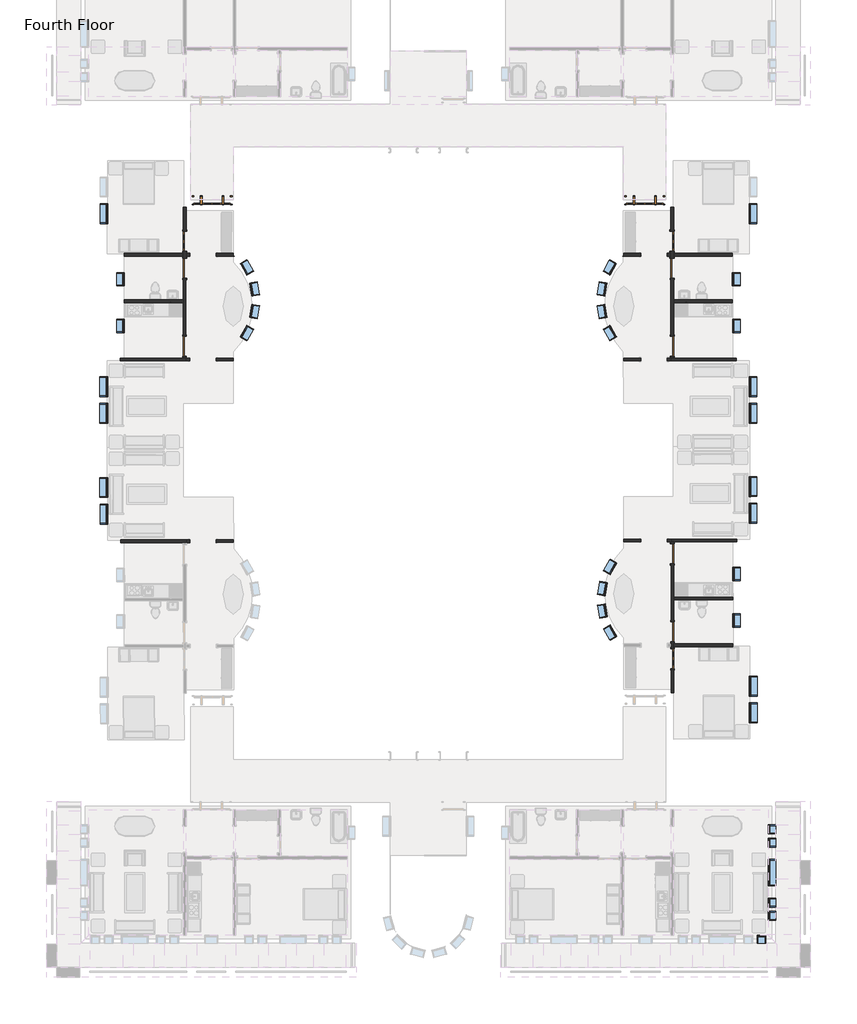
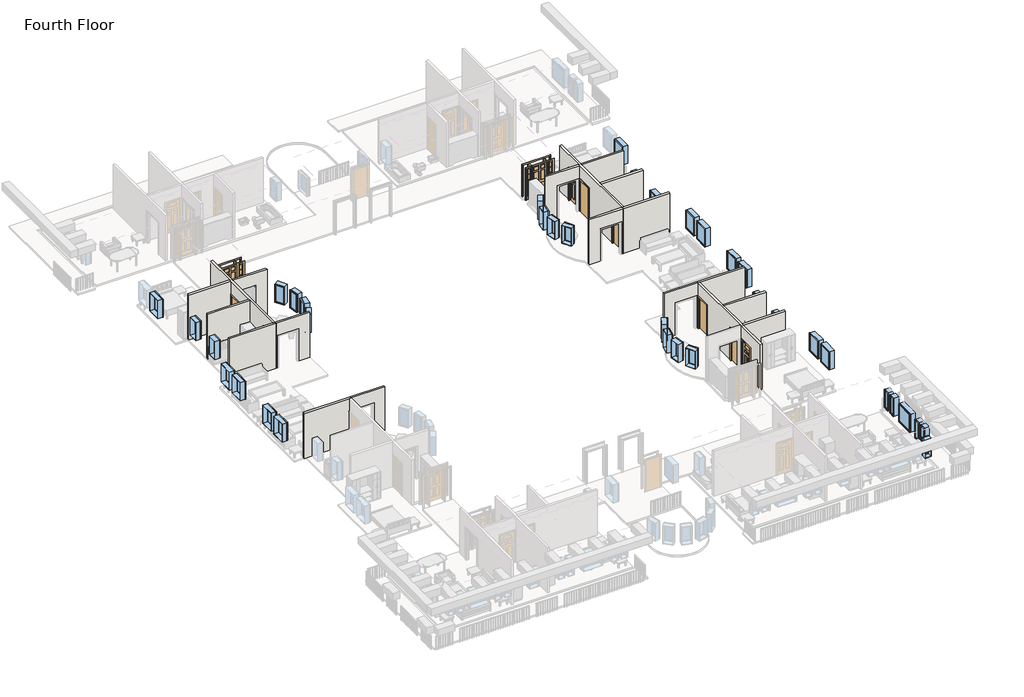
# One storey, part 2 of 6: 36 windows, 19 walls, 11 doors.
"""IFC4 building model written with IfcOpenShell, lengths in millimetres."""

from ifc_helpers import new_model, si_unit, frame, origin, place, context, project, spatial, polyline, circle_curve, outline, extrude, faceted_brep, transform, mapped, element, save
from ifc_brep_helpers import plane_surface, cylinder_surface, advanced_brep
from components import door_7a520c88, door_829da954, door_a1797ceb, door_a3eb833a, door_16372e1c, door_dba5aa2e, door_ffdb1193, window_da97879f, window_d61ef850, window_60baf983, window_ed80354a, window_15c49d37, window_0e2fc6ce, window_d89bf842

model = new_model("IFC4")

# Units and contexts
model_context = context("Model", 3, world=origin())
ifc_project = project(units=[si_unit("LENGTHUNIT", "METRE", prefix="MILLI")], contexts=[model_context])

# Site, building, storey
site = spatial("IfcSite", under=ifc_project)
building = spatial("IfcBuilding", under=site)
storey = spatial("IfcBuildingStorey", under=building, Name="Fourth Floor", Elevation=9144.0)

# Doors
placement = place(None, origin())
door_shape = door_7a520c88(model_context)
element("IfcDoor", 1, ObjectType="Single-Decorative 2 : 36\" x 84\"", at=placement, inside=storey, context=model_context, shape_type="MappedRepresentation", body=[
    mapped(door_shape, transform((-3771.8996568, -2102.1231556, 9144.0), x_axis=(0.0007588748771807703, -0.9999997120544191, 0.0), y_axis=(0.9999997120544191, 0.0007588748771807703, 0.0), z_axis=(0.0, 0.0, 1.0))),
])
door_2_shape = door_829da954(model_context)
element("IfcDoor", 2, ObjectType="Single-Decorative 2 : 36\" x 84\"", at=placement, inside=storey, context=model_context, shape_type="MappedRepresentation", body=[
    mapped(door_2_shape, transform((-26098.4432559, -2102.1231556, 9144.0), x_axis=(-0.0007588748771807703, -0.9999997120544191, 0.0), y_axis=(0.9999997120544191, -0.0007588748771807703, 0.0), z_axis=(0.0, 0.0, 1.0))),
])
element("IfcDoor", 3, ObjectType="Single-Decorative 2 : 36\" x 84\"", at=placement, inside=storey, context=model_context, shape_type="MappedRepresentation", body=[
    mapped(door_2_shape, transform((-3757.4044126, -21203.0849432, 9144.0), x_axis=(-0.0007588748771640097, 0.999999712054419, 0.0), y_axis=(-0.999999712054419, -0.0007588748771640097, 0.0), z_axis=(0.0, 0.0, 1.0))),
])
door_3_shape = door_a1797ceb(model_context)
element("IfcDoor", 4, ObjectType="Single-Flush : 36\" x 84\"", at=placement, inside=storey, context=model_context, shape_type="MappedRepresentation", body=[
    mapped(door_3_shape, transform((-26099.3684761, -3321.3228045, 9144.0), x_axis=(0.0007588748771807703, 0.9999997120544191, 0.0), y_axis=(-0.9999997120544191, 0.0007588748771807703, 0.0), z_axis=(0.0, 0.0, 1.0))),
])
element("IfcDoor", 5, ObjectType="Single-Flush : 36\" x 84\"", at=placement, inside=storey, context=model_context, shape_type="MappedRepresentation", body=[
    mapped(door_3_shape, transform((-3758.3296328, -19983.8852943, 9144.0), x_axis=(0.0007588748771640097, -0.999999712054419, 0.0), y_axis=(0.999999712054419, 0.0007588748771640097, 0.0), z_axis=(0.0, 0.0, 1.0))),
])
door_4_shape = door_a3eb833a(model_context)
element("IfcDoor", 6, ObjectType="Single-Flush : 36\" x 84\"", at=placement, inside=storey, context=model_context, shape_type="MappedRepresentation", body=[
    mapped(door_4_shape, transform((-26102.0839012, -6899.5467742, 9144.0), x_axis=(-0.0007588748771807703, -0.9999997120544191, 0.0), y_axis=(0.9999997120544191, -0.0007588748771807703, 0.0), z_axis=(0.0, 0.0, 1.0))),
])
element("IfcDoor", 7, ObjectType="Single-Flush : 36\" x 84\"", at=placement, inside=storey, context=model_context, shape_type="MappedRepresentation", body=[
    mapped(door_4_shape, transform((-3761.0450579, -16405.6613246, 9144.0), x_axis=(-0.0007588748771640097, 0.999999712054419, 0.0), y_axis=(-0.999999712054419, -0.0007588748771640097, 0.0), z_axis=(0.0, 0.0, 1.0))),
])
door_5_shape = door_16372e1c(model_context)
element("IfcDoor", 8, ObjectType="Single-Flush : 36\" x 84\"", at=placement, inside=storey, context=model_context, shape_type="MappedRepresentation", body=[
    mapped(door_5_shape, transform((-3768.2590115, -6899.5467742, 9144.0), x_axis=(0.0007588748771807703, -0.9999997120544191, 0.0), y_axis=(0.9999997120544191, 0.0007588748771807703, 0.0), z_axis=(0.0, 0.0, 1.0))),
])
element("IfcDoor", 9, ObjectType="Single-Flush : 36\" x 84\"", at=placement, inside=storey, context=model_context, shape_type="MappedRepresentation", body=[
    mapped(door_5_shape, transform((-3770.9744365, -3321.3228045, 9144.0), x_axis=(-0.0007588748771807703, 0.9999997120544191, 0.0), y_axis=(-0.9999997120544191, -0.0007588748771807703, 0.0), z_axis=(0.0, 0.0, 1.0))),
])
door_6_shape = door_dba5aa2e(model_context)
element("IfcDoor", 10, ObjectType="Single-Raised Panel with Sidelights : 36\" x 84\"", at=placement, inside=storey, context=model_context, shape_type="MappedRepresentation", body=[
    mapped(door_6_shape, transform((-24841.3047997, -223.5602693, 9144.0), x_axis=(0.9999997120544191, -0.0007588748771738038, 0.0), y_axis=(0.0007588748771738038, 0.9999997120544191, 0.0), z_axis=(0.0, 0.0, 1.0))),
])
door_7_shape = door_ffdb1193(model_context)
element("IfcDoor", 11, ObjectType="Single-Raised Panel with Sidelights : 36\" x 84\"", at=placement, inside=storey, context=model_context, shape_type="MappedRepresentation", body=[
    mapped(door_7_shape, transform((-5029.0381129, -223.5602693, 9144.0), x_axis=(-0.9999997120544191, -0.0007588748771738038, 0.0), y_axis=(0.0007588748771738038, -0.9999997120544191, 0.0), z_axis=(0.0, 0.0, 1.0))),
])

# Walls
element("IfcWall", 12, ObjectType="Interior - 5\" Partition (2-hr)", at=placement, inside=storey, context=model_context, shape_type="Brep", body=[
    faceted_brep([(-832.5579351, -7443.419101, 9144.0), (-3704.3446082, -7445.5984284, 9144.0), (-3831.3445716, -7445.6948055, 9144.0), (-3831.3445716, -7445.6948055, 12192.0), (-3704.3446082, -7445.5984284, 12192.0), (-832.5579351, -7443.419101, 12192.0), (-832.461558, -7570.4190644, 9144.0), (-832.461558, -7570.4190644, 12192.0), (-3831.2481945, -7572.6947689, 12192.0), (-3831.2481945, -7572.6947689, 9144.0)], [[[0, 1, 2, 3, 4, 5]], [[6, 7, 8, 9]], [[2, 1, 0, 6, 9]], [[5, 4, 3, 8, 7]], [[0, 5, 7, 6]], [[3, 2, 9, 8]]]),
])
element("IfcWall", 13, ObjectType="Interior - 5\" Partition (2-hr)", at=placement, inside=storey, context=model_context, shape_type="Brep", body=[
    faceted_brep([(-3836.5862816, -538.4842944, 9144.0), (-3836.5862816, -538.4842944, 12192.0), (-3709.5863182, -538.3879173, 12192.0), (-3709.5863182, -538.3879173, 9144.0), (-3831.3445716, -7445.6948055, 9144.0), (-3831.4120356, -7356.7948311, 9144.0), (-3704.4120721, -7356.698454, 9144.0), (-3704.3446082, -7445.5984284, 9144.0), (-3834.8213758, -2864.1711247, 9144.0), (-3834.8888398, -2775.2711503, 9144.0), (-3834.9852169, -2648.2711869, 9144.0), (-3835.0526809, -2559.3712125, 9144.0), (-3708.0527175, -2559.2748354, 9144.0), (-3707.9852535, -2648.1748098, 9144.0), (-3707.8888764, -2775.1747732, 9144.0), (-3707.8214124, -2864.0747476, 9144.0), (-3707.1274972, -3778.4744843, 9144.0), (-3706.366118, -4781.7741954, 9144.0), (-3706.2697409, -4908.7741589, 9144.0), (-3705.1059873, -6442.2987173, 9144.0), (-3832.1059508, -6442.3950944, 9144.0), (-3834.1274606, -3778.5708614, 9144.0), (-3835.7465961, -1644.9714758, 9144.0), (-3708.7466326, -1644.8750987, 9144.0), (-3834.9852169, -2648.2711869, 12192.0), (-3834.8888398, -2775.2711503, 12192.0), (-3831.3445716, -7445.6948055, 12192.0), (-3704.3446082, -7445.5984284, 12192.0), (-3706.2697409, -4908.7741589, 12192.0), (-3706.366118, -4781.7741954, 12192.0), (-3707.8888764, -2775.1747732, 12192.0), (-3707.9852535, -2648.1748098, 12192.0), (-3835.0526809, -2559.3712125, 11277.6), (-3834.8213758, -2864.1711247, 11277.6), (-3834.1274606, -3778.5708614, 11277.6), (-3832.1059508, -6442.3950944, 11277.6), (-3831.4120356, -7356.7948311, 11277.6), (-3835.7465961, -1644.9714758, 11277.6), (-3708.0527175, -2559.2748354, 11277.6), (-3708.7466326, -1644.8750987, 11277.6), (-3704.4120721, -7356.698454, 11277.6), (-3705.1059873, -6442.2987173, 11277.6), (-3707.1274972, -3778.4744843, 11277.6), (-3707.8214124, -2864.0747476, 11277.6)], [[[0, 1, 2, 3]], [[4, 5, 6, 7]], [[8, 9, 10, 11, 12, 13, 14, 15]], [[16, 17, 18, 19, 20, 21]], [[22, 0, 3, 23]], [[1, 24, 25, 26, 27, 28, 29, 30, 31, 2]], [[32, 11, 10, 9, 8, 33, 34, 21, 20, 35, 36, 5, 4, 26, 25, 24, 1, 0, 22, 37]], [[15, 14, 13, 12, 38, 39, 23, 3, 2, 31, 30, 29, 28, 27, 7, 6, 40, 41, 19, 18, 17, 16, 42, 43]], [[26, 4, 7, 27]], [[40, 6, 5, 36]], [[41, 40, 36, 35]], [[19, 41, 35, 20]], [[33, 8, 15, 43]], [[34, 33, 43, 42]], [[21, 34, 42, 16]], [[38, 12, 11, 32]], [[39, 38, 32, 37]], [[23, 39, 37, 22]]]),
])
element("IfcWall", 14, ObjectType="Interior - 5\" Partition (2-hr)", at=placement, inside=storey, context=model_context, shape_type="SweptSolid", body=[
    extrude(outline(polyline([(-3707.9852535, -2648.1748098), (-1012.4110297, -2646.1292056), (-1012.3146526, -2773.1291691), (-3707.8888764, -2775.1747732), (-3707.9852535, -2648.1748098)])), frame((0.0, 0.0, 9144.0), z_axis=(0.0, 0.0, 1.0), x_axis=(1.0, 0.0, 0.0)), (0.0, 0.0, 1.0), 3048.0),
])
element("IfcWall", 15, ObjectType="Interior - 5\" Partition (2-hr)", at=placement, inside=storey, context=model_context, shape_type="SweptSolid", body=[
    extrude(outline(polyline([(-1010.6955171, -4906.7285547), (-3706.2697409, -4908.7741589), (-3706.366118, -4781.7741954), (-1010.7918942, -4779.7285913), (-1010.6955171, -4906.7285547)])), frame((0.0, 0.0, 9144.0), z_axis=(0.0, 0.0, 1.0), x_axis=(1.0, 0.0, 0.0)), (0.0, 0.0, 1.0), 3048.0),
])
element("IfcWall", 16, ObjectType="Interior - 5\" Partition (2-hr)", at=placement, inside=storey, context=model_context, shape_type="AdvancedBrep", body=[
    advanced_brep(
    [(-5993.9845952, -2649.9095978, 9144.0), (-5219.2848183, -2649.3216974, 9144.0), (-5219.1884412, -2776.3216608, 9144.0), (-6035.2682302, -2776.9409635, 9144.0), (-5993.9193325, -2735.9088692, 9144.0), (-4000.0851694, -2648.3964771, 9144.0), (-3834.9852169, -2648.2711869, 9144.0), (-3834.8888398, -2775.2711503, 9144.0), (-3999.9887923, -2775.3964406, 9144.0), (-3834.9852169, -2648.2711869, 12192.0), (-5993.9845952, -2649.9095978, 12192.0), (-5993.9193325, -2735.9088692, 12192.0), (-6035.2682302, -2776.9409635, 12192.0), (-3834.8888398, -2775.2711503, 12192.0), (-5219.2848183, -2649.3216974, 11277.6), (-4000.0851694, -2648.3964771, 11277.6), (-5219.1884412, -2776.3216608, 11277.6), (-3999.9887923, -2775.3964406, 11277.6)],
    [
        (0, 1),
        (1, 2),
        (2, 3),
        (3, 4, circle_curve(frame((-3991.8614496, -4794.7744983, 9144.0), z_axis=(0.0, 0.0, -1.0), x_axis=(-0.716928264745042, -0.697146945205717, 0.0)), 2871.7875)),
        (4, 0),
        (5, 6),
        (6, 7),
        (7, 8),
        (8, 5),
        (9, 10),
        (10, 11),
        (11, 12, circle_curve(frame((-3991.8614496, -4794.7744983, 12192.0), z_axis=(0.0, 0.0, 1.0), x_axis=(-0.716928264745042, -0.697146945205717, 0.0)), 2871.7875)),
        (12, 13),
        (13, 9),
        (14, 1),
        (0, 10),
        (9, 6),
        (5, 15),
        (15, 14),
        (2, 16),
        (16, 17),
        (17, 8),
        (7, 13),
        (12, 3),
        (4, 11),
        (17, 15),
        (14, 16),
    ],
    [
        plane_surface(frame((-3771.4852352, -2648.2229983, 9144.0), z_axis=(0.0, 0.0, -1.0000000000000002), x_axis=(0.0007588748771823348, -0.9999997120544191, 0.0))),
        plane_surface(frame((-6218.7760824, -2650.0801864, 12192.0), z_axis=(0.0, 0.0, 1.0000000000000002), x_axis=(0.000758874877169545, -0.9999997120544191, 0.0))),
        plane_surface(frame((-3771.4852352, -2648.2229983, 9144.0), z_axis=(-0.0007588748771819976, 0.9999997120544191, 0.0), x_axis=(-0.9999997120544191, -0.0007588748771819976, 0.0))),
        plane_surface(frame((-3771.3888581, -2775.2229618, 9144.0), z_axis=(0.0007588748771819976, -0.9999997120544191, 0.0), x_axis=(0.9999997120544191, 0.0007588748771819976, 0.0))),
        plane_surface(frame((-3836.4525584, -714.6967437, 9144.0), z_axis=(0.9999997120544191, 0.0007588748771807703, 0.0), x_axis=(0.0007588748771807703, -0.9999997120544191, 0.0))),
        plane_surface(frame((-5994.8723335, -1480.1014046, 8991.6), z_axis=(-0.999999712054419, -0.0007588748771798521, 0.0), x_axis=(0.0007588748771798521, -0.999999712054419, 0.0))),
        cylinder_surface(frame((-3991.8614496, -4794.7744983, 8991.6), z_axis=(0.0, 0.0, 1.0), x_axis=(-0.716928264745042, -0.697146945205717, 0.0)), 2871.7875),
        plane_surface(frame((-3999.9887923, -2775.3964406, 11277.6), z_axis=(-0.9999997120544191, -0.0007588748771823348, 0.0), x_axis=(-0.0007588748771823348, 0.9999997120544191, 0.0))),
        plane_surface(frame((-5219.1884412, -2776.3216608, 9144.0), z_axis=(0.9999997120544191, 0.0007588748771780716, 0.0), x_axis=(-0.0007588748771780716, 0.9999997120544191, 0.0))),
        plane_surface(frame((-5219.1884412, -2776.3216608, 11277.6), z_axis=(0.0, 0.0, -1.0000000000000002), x_axis=(-0.0007588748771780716, 0.9999997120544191, 0.0))),
    ],
    [
        (0, [[1, 2, 3, 4, 5]]),
        (0, [[6, 7, 8, 9]]),
        (1, [[10, 11, 12, 13, 14]]),
        (2, [[15, -1, 16, -10, 17, -6, 18, 19]]),
        (3, [[-3, 20, 21, 22, -8, 23, -13, 24]]),
        (4, [[-17, -14, -23, -7]]),
        (5, [[-16, -5, 25, -11]]),
        (6, [[-4, -24, -12, -25]]),
        (7, [[-22, 26, -18, -9]]),
        (8, [[-20, -2, -15, 27]]),
        (9, [[-21, -27, -19, -26]]),
    ],
),
])
element("IfcWall", 17, ObjectType="Interior - 5\" Partition (2-hr)", at=placement, inside=storey, context=model_context, shape_type="SweptSolid", body=[
    extrude(outline(polyline([(-228.6, -2133.6), (-228.6, 0.0), (-63.5, 0.0), (-63.5, -3048.0), (-2222.5, -3048.0), (-2222.5, 0.0), (-1447.8, 0.0), (-1447.8, -2133.6), (-228.6, -2133.6)])), frame((-3767.7482128, -7572.6465804, 9144.0), z_axis=(-0.0007588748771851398, 0.9999997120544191, 0.0), x_axis=(0.9999997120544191, 0.0007588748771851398, 0.0)), (0.0, 0.0, 1.0), 127.0),
])
element("IfcWall", 18, ObjectType="Interior - 5\" Partition (2-hr)", at=placement, inside=storey, context=model_context, shape_type="Brep", body=[
    faceted_brep([(-29037.8813546, -7570.4190644, 9144.0), (-26039.0947181, -7572.6947689, 9144.0), (-26039.0947181, -7572.6947689, 12192.0), (-29037.8813546, -7570.4190644, 12192.0), (-29037.7849775, -7443.419101, 9144.0), (-29037.7849775, -7443.419101, 12192.0), (-26165.9983045, -7445.5984284, 12192.0), (-26038.998341, -7445.6948055, 12192.0), (-26038.998341, -7445.6948055, 9144.0), (-26165.9983045, -7445.5984284, 9144.0)], [[[0, 1, 2, 3]], [[4, 5, 6, 7, 8, 9]], [[1, 0, 4, 9, 8]], [[3, 2, 7, 6, 5]], [[0, 3, 5, 4]], [[2, 1, 8, 7]]]),
])
element("IfcWall", 19, ObjectType="Interior - 5\" Partition (2-hr)", at=placement, inside=storey, context=model_context, shape_type="Brep", body=[
    faceted_brep([(-26160.7565944, -538.3879173, 9144.0), (-26160.7565944, -538.3879173, 12192.0), (-26033.756631, -538.4842944, 12192.0), (-26033.756631, -538.4842944, 9144.0), (-26165.9983045, -7445.5984284, 9144.0), (-26165.9308405, -7356.698454, 9144.0), (-26038.930877, -7356.7948311, 9144.0), (-26038.998341, -7445.6948055, 9144.0), (-26162.5215002, -2864.0747476, 9144.0), (-26162.4540363, -2775.1747732, 9144.0), (-26162.3576591, -2648.1748098, 9144.0), (-26162.2901952, -2559.2748354, 9144.0), (-26035.2902317, -2559.3712125, 9144.0), (-26035.3576957, -2648.2711869, 9144.0), (-26035.4540728, -2775.2711503, 9144.0), (-26035.5215368, -2864.1711247, 9144.0), (-26036.215452, -3778.5708614, 9144.0), (-26038.2369619, -6442.3950944, 9144.0), (-26165.2369253, -6442.2987173, 9144.0), (-26164.0731717, -4908.7741589, 9144.0), (-26163.9767946, -4781.7741954, 9144.0), (-26163.2154154, -3778.4744843, 9144.0), (-26161.59628, -1644.8750987, 9144.0), (-26034.5963165, -1644.9714758, 9144.0), (-26162.3576591, -2648.1748098, 12192.0), (-26162.4540363, -2775.1747732, 12192.0), (-26163.9767946, -4781.7741954, 12192.0), (-26164.0731717, -4908.7741589, 12192.0), (-26165.9983045, -7445.5984284, 12192.0), (-26038.998341, -7445.6948055, 12192.0), (-26035.4540728, -2775.2711503, 12192.0), (-26035.3576957, -2648.2711869, 12192.0), (-26162.2901952, -2559.2748354, 11277.6), (-26162.5215002, -2864.0747476, 11277.6), (-26163.2154154, -3778.4744843, 11277.6), (-26165.2369253, -6442.2987173, 11277.6), (-26165.9308405, -7356.698454, 11277.6), (-26161.59628, -1644.8750987, 11277.6), (-26035.2902317, -2559.3712125, 11277.6), (-26034.5963165, -1644.9714758, 11277.6), (-26038.930877, -7356.7948311, 11277.6), (-26038.2369619, -6442.3950944, 11277.6), (-26036.215452, -3778.5708614, 11277.6), (-26035.5215368, -2864.1711247, 11277.6)], [[[0, 1, 2, 3]], [[4, 5, 6, 7]], [[8, 9, 10, 11, 12, 13, 14, 15]], [[16, 17, 18, 19, 20, 21]], [[22, 0, 3, 23]], [[1, 24, 25, 26, 27, 28, 29, 30, 31, 2]], [[32, 11, 10, 9, 8, 33, 34, 21, 20, 19, 18, 35, 36, 5, 4, 28, 27, 26, 25, 24, 1, 0, 22, 37]], [[15, 14, 13, 12, 38, 39, 23, 3, 2, 31, 30, 29, 7, 6, 40, 41, 17, 16, 42, 43]], [[28, 4, 7, 29]], [[40, 6, 5, 36]], [[41, 40, 36, 35]], [[17, 41, 35, 18]], [[33, 8, 15, 43]], [[34, 33, 43, 42]], [[21, 34, 42, 16]], [[38, 12, 11, 32]], [[39, 38, 32, 37]], [[23, 39, 37, 22]]]),
])
element("IfcWall", 20, ObjectType="Interior - 5\" Partition (2-hr)", at=placement, inside=storey, context=model_context, shape_type="SweptSolid", body=[
    extrude(outline(polyline([(-26162.4540363, -2775.1747732), (-28858.0282601, -2773.1291691), (-28857.931883, -2646.1292056), (-26162.3576591, -2648.1748098), (-26162.4540363, -2775.1747732)])), frame((0.0, 0.0, 9144.0), z_axis=(0.0, 0.0, 1.0), x_axis=(1.0, 0.0, 0.0)), (0.0, 0.0, 1.0), 3048.0),
])
element("IfcWall", 21, ObjectType="Interior - 5\" Partition (2-hr)", at=placement, inside=storey, context=model_context, shape_type="SweptSolid", body=[
    extrude(outline(polyline([(-28859.5510184, -4779.7285913), (-26163.9767946, -4781.7741954), (-26164.0731717, -4908.7741589), (-28859.6473955, -4906.7285547), (-28859.5510184, -4779.7285913)])), frame((0.0, 0.0, 9144.0), z_axis=(0.0, 0.0, 1.0), x_axis=(1.0, 0.0, 0.0)), (0.0, 0.0, 1.0), 3048.0),
])
element("IfcWall", 22, ObjectType="Interior - 5\" Partition (2-hr)", at=placement, inside=storey, context=model_context, shape_type="AdvancedBrep", body=[
    advanced_brep(
    [(-23835.0746824, -2776.9409635, 9144.0), (-24651.1544714, -2776.3216608, 9144.0), (-24651.0580943, -2649.3216974, 9144.0), (-23876.3583174, -2649.9095978, 9144.0), (-23876.4235801, -2735.9088692, 9144.0), (-25870.3541204, -2775.3964406, 9144.0), (-26035.4540728, -2775.2711503, 9144.0), (-26035.3576957, -2648.2711869, 9144.0), (-25870.2577433, -2648.3964771, 9144.0), (-26035.4540728, -2775.2711503, 12192.0), (-23835.0746824, -2776.9409635, 12192.0), (-23876.4235801, -2735.9088692, 12192.0), (-23876.3583174, -2649.9095978, 12192.0), (-26035.3576957, -2648.2711869, 12192.0), (-24651.1544714, -2776.3216608, 11277.6), (-25870.3541204, -2775.3964406, 11277.6), (-24651.0580943, -2649.3216974, 11277.6), (-25870.2577433, -2648.3964771, 11277.6)],
    [
        (0, 1),
        (1, 2),
        (2, 3),
        (3, 4),
        (4, 0, circle_curve(frame((-25878.481463, -4794.7744983, 9144.0), z_axis=(0.0, 0.0, -1.0), x_axis=(0.7005417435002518, 0.7136114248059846, 0.0)), 2871.7875)),
        (5, 6),
        (6, 7),
        (7, 8),
        (8, 5),
        (9, 10),
        (10, 11, circle_curve(frame((-25878.481463, -4794.7744983, 12192.0), z_axis=(0.0, 0.0, 1.0), x_axis=(0.7005417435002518, 0.7136114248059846, 0.0)), 2871.7875)),
        (11, 12),
        (12, 13),
        (13, 9),
        (14, 1),
        (0, 10),
        (9, 6),
        (5, 15),
        (15, 14),
        (2, 16),
        (16, 17),
        (17, 8),
        (7, 13),
        (12, 3),
        (4, 11),
        (17, 15),
        (14, 16),
    ],
    [
        plane_surface(frame((-26098.9540545, -2775.2229618, 9144.0), z_axis=(0.0, 0.0, -1.0000000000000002), x_axis=(0.000758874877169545, 0.9999997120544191, 0.0))),
        plane_surface(frame((-23651.6632074, -2777.0801499, 12192.0), z_axis=(0.0, 0.0, 1.0000000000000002), x_axis=(0.000758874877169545, 0.9999997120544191, 0.0))),
        plane_surface(frame((-26098.9540545, -2775.2229618, 9144.0), z_axis=(-0.0007588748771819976, -0.9999997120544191, 0.0), x_axis=(0.9999997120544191, -0.0007588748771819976, 0.0))),
        plane_surface(frame((-26098.8576774, -2648.2229983, 9144.0), z_axis=(0.0007588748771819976, 0.9999997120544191, 0.0), x_axis=(-0.9999997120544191, 0.0007588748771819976, 0.0))),
        plane_surface(frame((-26033.8903542, -714.6967437, 9144.0), z_axis=(-0.9999997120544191, 0.0007588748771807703, 0.0), x_axis=(0.0007588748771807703, 0.9999997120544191, 0.0))),
        cylinder_surface(frame((-25878.481463, -4794.7744983, 8991.6), z_axis=(0.0, 0.0, 1.0), x_axis=(0.7005417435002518, 0.7136114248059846, 0.0)), 2871.7875),
        plane_surface(frame((-23875.4705791, -1480.1014046, 8991.6), z_axis=(0.999999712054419, -0.0007588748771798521, 0.0), x_axis=(0.0007588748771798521, 0.999999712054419, 0.0))),
        plane_surface(frame((-25870.2577433, -2648.3964771, 11277.6), z_axis=(0.9999997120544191, -0.000758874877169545, 0.0), x_axis=(-0.000758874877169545, -0.9999997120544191, 0.0))),
        plane_surface(frame((-24651.0580943, -2649.3216974, 9144.0), z_axis=(-0.9999997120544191, 0.000758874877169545, 0.0), x_axis=(-0.000758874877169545, -0.9999997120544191, 0.0))),
        plane_surface(frame((-24651.0580943, -2649.3216974, 11277.6), z_axis=(0.0, 0.0, -1.0000000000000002), x_axis=(-0.000758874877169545, -0.9999997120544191, 0.0))),
    ],
    [
        (0, [[1, 2, 3, 4, 5]]),
        (0, [[6, 7, 8, 9]]),
        (1, [[10, 11, 12, 13, 14]]),
        (2, [[15, -1, 16, -10, 17, -6, 18, 19]]),
        (3, [[-3, 20, 21, 22, -8, 23, -13, 24]]),
        (4, [[-17, -14, -23, -7]]),
        (5, [[-16, -5, 25, -11]]),
        (6, [[-4, -24, -12, -25]]),
        (7, [[-22, 26, -18, -9]]),
        (8, [[-20, -2, -15, 27]]),
        (9, [[-21, -27, -19, -26]]),
    ],
),
])
element("IfcWall", 23, ObjectType="Interior - 5\" Partition (2-hr)", at=placement, inside=storey, context=model_context, shape_type="SweptSolid", body=[
    extrude(outline(polyline([(63.5, 0.0), (228.5999999, 0.0), (228.5999999, -2133.6), (1447.8, -2133.6), (1447.8, 0.0), (2222.5, 0.0), (2222.5, -3048.0), (63.5, -3048.0), (63.5, 0.0)])), frame((-26102.5946998, -7572.6465804, 9144.0), z_axis=(0.0007588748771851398, 0.9999997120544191, 0.0), x_axis=(0.9999997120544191, -0.0007588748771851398, 0.0)), (0.0, 0.0, 1.0), 127.0),
])
element("IfcWall", 24, ObjectType="Interior - 5\" Partition (2-hr)", at=placement, inside=storey, context=model_context, shape_type="Brep", body=[
    faceted_brep([(-826.2692018, -15730.3340025, 9144.0), (-3825.0558383, -15732.609707, 9144.0), (-3825.0558383, -15732.609707, 12192.0), (-826.2692018, -15730.3340025, 12192.0), (-826.1728246, -15857.3339659, 9144.0), (-826.1728246, -15857.3339659, 12192.0), (-3697.9594977, -15859.5132933, 12192.0), (-3824.9594612, -15859.6096704, 12192.0), (-3824.9594612, -15859.6096704, 9144.0), (-3697.9594977, -15859.5132933, 9144.0)], [[[0, 1, 2, 3]], [[4, 5, 6, 7, 8, 9]], [[1, 0, 4, 9, 8]], [[3, 2, 7, 6, 5]], [[0, 3, 5, 4]], [[2, 1, 8, 7]]]),
])
element("IfcWall", 25, ObjectType="Interior - 5\" Partition (2-hr)", at=placement, inside=storey, context=model_context, shape_type="Brep", body=[
    faceted_brep([(-3692.7177877, -22766.7238044, 9144.0), (-3692.7177877, -22766.7238044, 12192.0), (-3819.7177511, -22766.8201815, 12192.0), (-3819.7177511, -22766.8201815, 9144.0), (-3697.9594977, -15859.5132933, 9144.0), (-3697.8920337, -15948.4132677, 9144.0), (-3824.8919972, -15948.5096448, 9144.0), (-3824.9594612, -15859.6096704, 9144.0), (-3694.4826935, -20441.0369741, 9144.0), (-3694.4152295, -20529.9369485, 9144.0), (-3694.3188524, -20656.9369119, 9144.0), (-3694.2513884, -20745.8368863, 9144.0), (-3821.2513519, -20745.9332634, 9144.0), (-3821.3188158, -20657.033289, 9144.0), (-3821.415193, -20530.0333256, 9144.0), (-3821.4826569, -20441.1333512, 9144.0), (-3822.1765721, -19526.7336145, 9144.0), (-3824.198082, -16862.9093815, 9144.0), (-3697.1981186, -16862.8130044, 9144.0), (-3696.034365, -18396.3375629, 9144.0), (-3695.9379879, -18523.3375263, 9144.0), (-3695.1766087, -19526.6372374, 9144.0), (-3693.5574733, -21660.236623, 9144.0), (-3820.5574367, -21660.3330001, 9144.0), (-3694.3188524, -20656.9369119, 12192.0), (-3694.4152295, -20529.9369485, 12192.0), (-3695.9379879, -18523.3375263, 12192.0), (-3696.034365, -18396.3375629, 12192.0), (-3697.9594977, -15859.5132933, 12192.0), (-3824.9594612, -15859.6096704, 12192.0), (-3821.415193, -20530.0333256, 12192.0), (-3821.3188158, -20657.033289, 12192.0), (-3694.2513884, -20745.8368863, 11277.6), (-3694.4826935, -20441.0369741, 11277.6), (-3695.1766087, -19526.6372374, 11277.6), (-3697.1981186, -16862.8130044, 11277.6), (-3697.8920337, -15948.4132677, 11277.6), (-3693.5574733, -21660.236623, 11277.6), (-3821.2513519, -20745.9332634, 11277.6), (-3820.5574367, -21660.3330001, 11277.6), (-3824.8919972, -15948.5096448, 11277.6), (-3824.198082, -16862.9093815, 11277.6), (-3822.1765721, -19526.7336145, 11277.6), (-3821.4826569, -20441.1333512, 11277.6)], [[[0, 1, 2, 3]], [[4, 5, 6, 7]], [[8, 9, 10, 11, 12, 13, 14, 15]], [[16, 17, 18, 19, 20, 21]], [[22, 0, 3, 23]], [[1, 24, 25, 26, 27, 28, 29, 30, 31, 2]], [[32, 11, 10, 9, 8, 33, 34, 21, 20, 19, 18, 35, 36, 5, 4, 28, 27, 26, 25, 24, 1, 0, 22, 37]], [[15, 14, 13, 12, 38, 39, 23, 3, 2, 31, 30, 29, 7, 6, 40, 41, 17, 16, 42, 43]], [[28, 4, 7, 29]], [[40, 6, 5, 36]], [[41, 40, 36, 35]], [[17, 41, 35, 18]], [[33, 8, 15, 43]], [[34, 33, 43, 42]], [[21, 34, 42, 16]], [[38, 12, 11, 32]], [[39, 38, 32, 37]], [[23, 39, 37, 22]]]),
])
element("IfcWall", 26, ObjectType="Interior - 5\" Partition (2-hr)", at=placement, inside=storey, context=model_context, shape_type="SweptSolid", body=[
    extrude(outline(polyline([(-3694.4152295, -20529.9369485), (-998.8410057, -20527.8913444), (-998.7446286, -20654.8913078), (-3694.3188524, -20656.9369119), (-3694.4152295, -20529.9369485)])), frame((0.0, 0.0, 9144.0), z_axis=(0.0, 0.0, 1.0), x_axis=(1.0, 0.0, 0.0)), (0.0, 0.0, 1.0), 3048.0),
])
element("IfcWall", 27, ObjectType="Interior - 5\" Partition (2-hr)", at=placement, inside=storey, context=model_context, shape_type="SweptSolid", body=[
    extrude(outline(polyline([(-1000.363764, -18521.2919221), (-3695.9379879, -18523.3375263), (-3696.034365, -18396.3375629), (-1000.4601411, -18394.2919587), (-1000.363764, -18521.2919221)])), frame((0.0, 0.0, 9144.0), z_axis=(0.0, 0.0, 1.0), x_axis=(1.0, 0.0, 0.0)), (0.0, 0.0, 1.0), 3048.0),
])
element("IfcWall", 28, ObjectType="Interior - 5\" Partition (2-hr)", at=placement, inside=storey, context=model_context, shape_type="SweptSolid", body=[
    extrude(outline(polyline([(-228.6, -2133.6), (-228.6, 0.0), (-63.5000001, 0.0), (-63.5000001, -3048.0), (-2222.5000001, -3048.0), (-2222.5000001, 0.0), (-1447.8000001, 0.0), (-1447.8000001, -2133.6), (-228.6, -2133.6)])), frame((-3761.4594794, -15859.5614819, 9144.0), z_axis=(-0.0007588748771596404, 0.9999997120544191, 0.0), x_axis=(0.9999997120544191, 0.0007588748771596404, 0.0)), (0.0, 0.0, 1.0), 127.0),
])
element("IfcWall", 29, ObjectType="Interior - 5\" Partition (2-hr)", at=placement, inside=storey, context=model_context, shape_type="Brep", body=[
    faceted_brep([(-29031.3673808, -15900.14243, 9144.0), (-26159.5873231, -15893.6044529, 9144.0), (-26032.5876522, -15893.3153218, 9144.0), (-26032.5876522, -15893.3153218, 12192.0), (-26159.5873231, -15893.6044529, 12192.0), (-29031.3673808, -15900.14243, 12192.0), (-29031.6565119, -15773.1427592, 9144.0), (-29031.6565119, -15773.1427592, 12192.0), (-26032.8767833, -15766.3156509, 12192.0), (-26032.8767833, -15766.3156509, 9144.0)], [[[0, 1, 2, 3, 4, 5]], [[6, 7, 8, 9]], [[2, 1, 0, 6, 9]], [[5, 4, 3, 8, 7]], [[0, 5, 7, 6]], [[3, 2, 9, 8]]]),
])
element("IfcWall", 30, ObjectType="Interior - 5\" Partition (2-hr)", at=placement, inside=storey, context=model_context, shape_type="SweptSolid", body=[
    extrude(outline(polyline([(63.5, 0.0), (228.5999999, 0.0), (228.5999999, -2133.6), (1447.8, -2133.6), (1447.8, 0.0), (2222.4999999, 0.0), (2222.4999999, -3048.0), (63.5, -3048.0), (63.5, 0.0)])), frame((-26096.0874876, -15893.4598873, 9144.0), z_axis=(-0.002276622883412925, 0.9999974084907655, 0.0), x_axis=(0.9999974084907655, 0.002276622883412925, 0.0)), (0.0, 0.0, 1.0), 127.0),
])

# Windows
window_shape = window_da97879f(model_context)
element("IfcWindow", 31, ObjectType="Fixed : 16\" x 48\"", at=placement, inside=storey, context=model_context, shape_type="MappedRepresentation", body=[
    mapped(window_shape, transform((354.0410437, -34054.5683133, 9144.0), x_axis=(1.0, 0.0, 0.0), y_axis=(0.0, 1.0, 0.0), z_axis=(0.0, 0.0, 1.0))),
])
element("IfcWindow", 32, ObjectType="Fixed : 16\" x 48\"", at=placement, inside=storey, context=model_context, shape_type="MappedRepresentation", body=[
    mapped(window_shape, transform((798.5410437, -28987.2683133, 9144.0), x_axis=(0.0, 1.0, 0.0), y_axis=(-1.0, 0.0, 0.0), z_axis=(0.0, 0.0, 1.0))),
])
element("IfcWindow", 33, ObjectType="Fixed : 16\" x 48\"", at=placement, inside=storey, context=model_context, shape_type="MappedRepresentation", body=[
    mapped(window_shape, transform((798.5410437, -29596.8683133, 9144.0), x_axis=(0.0, 1.0, 0.0), y_axis=(-1.0, 0.0, 0.0), z_axis=(0.0, 0.0, 1.0))),
])
window_2_shape = window_d61ef850(model_context)
element("IfcWindow", 34, ObjectType="Fixed : 16\" x 48\"", at=placement, inside=storey, context=model_context, shape_type="MappedRepresentation", body=[
    mapped(window_2_shape, transform((798.5410437, -33025.8683133, 9144.0), x_axis=(0.0, -1.0, 0.0), y_axis=(1.0, 0.0, 0.0), z_axis=(0.0, 0.0, 1.0))),
])
element("IfcWindow", 35, ObjectType="Fixed : 16\" x 48\"", at=placement, inside=storey, context=model_context, shape_type="MappedRepresentation", body=[
    mapped(window_2_shape, transform((798.5410437, -32416.2683133, 9144.0), x_axis=(0.0, -1.0, 0.0), y_axis=(1.0, 0.0, 0.0), z_axis=(0.0, 0.0, 1.0))),
])
window_3_shape = window_60baf983(model_context)
element("IfcWindow", 36, ObjectType="Fixed : 24\" x 48\"", at=placement, inside=storey, context=model_context, shape_type="MappedRepresentation", body=[
    mapped(window_3_shape, transform((-6645.6605112, -3324.6411967, 9144.0), x_axis=(-0.4955320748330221, -0.8685896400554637, 0.0), y_axis=(0.8685896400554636, -0.49553207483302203, 0.0), z_axis=(0.0, 0.0, 0.9999999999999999))),
])
element("IfcWindow", 37, ObjectType="Fixed : 24\" x 48\"", at=placement, inside=storey, context=model_context, shape_type="MappedRepresentation", body=[
    mapped(window_3_shape, transform((-6988.2338749, -4319.7022169, 9144.0), x_axis=(-0.16898438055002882, -0.9856187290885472, 0.0), y_axis=(0.9856187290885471, -0.1689843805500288, 0.0), z_axis=(0.0, 0.0, 0.9999999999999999))),
])
element("IfcWindow", 38, ObjectType="Fixed : 24\" x 48\"", at=placement, inside=storey, context=model_context, shape_type="MappedRepresentation", body=[
    mapped(window_3_shape, transform((-29035.0780489, -3876.391272, 9144.0), x_axis=(-0.0007588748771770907, -0.9999997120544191, 0.0), y_axis=(0.9999997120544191, -0.0007588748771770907, 0.0), z_axis=(0.0, 0.0, 1.0))),
])
element("IfcWindow", 39, ObjectType="Fixed : 24\" x 48\"", at=placement, inside=storey, context=model_context, shape_type="MappedRepresentation", body=[
    mapped(window_3_shape, transform((-29036.6971844, -6009.9906576, 9144.0), x_axis=(-0.0007588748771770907, -0.9999997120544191, 0.0), y_axis=(0.9999997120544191, -0.0007588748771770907, 0.0), z_axis=(0.0, 0.0, 1.0))),
])
element("IfcWindow", 40, ObjectType="Fixed : 24\" x 48\"", at=placement, inside=storey, context=model_context, shape_type="MappedRepresentation", body=[
    mapped(window_3_shape, transform((-23228.4628132, -6268.0487642, 9144.0), x_axis=(0.4968498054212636, 0.8678365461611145, 0.0), y_axis=(-0.8678365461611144, 0.49684980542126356, 0.0), z_axis=(0.0, 0.0, 0.9999999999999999))),
])
element("IfcWindow", 41, ObjectType="Fixed : 24\" x 48\"", at=placement, inside=storey, context=model_context, shape_type="MappedRepresentation", body=[
    mapped(window_3_shape, transform((-22884.5889624, -5274.0902622, 9144.0), x_axis=(0.17048010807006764, 0.9853611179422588, 0.0), y_axis=(-0.9853611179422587, 0.1704801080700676, 0.0), z_axis=(0.0, 0.0, 0.9999999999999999))),
])
element("IfcWindow", 42, ObjectType="Fixed : 24\" x 48\"", at=placement, inside=storey, context=model_context, shape_type="MappedRepresentation", body=[
    mapped(window_3_shape, transform((-823.4658961, -19424.361795, 9144.0), x_axis=(-0.0007588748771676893, 0.999999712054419, 0.0), y_axis=(-0.999999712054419, -0.0007588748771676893, 0.0), z_axis=(0.0, 0.0, 1.0))),
])
element("IfcWindow", 43, ObjectType="Fixed : 24\" x 48\"", at=placement, inside=storey, context=model_context, shape_type="MappedRepresentation", body=[
    mapped(window_3_shape, transform((-825.0850315, -17290.7624094, 9144.0), x_axis=(-0.0007588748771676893, 0.999999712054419, 0.0), y_axis=(-0.999999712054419, -0.0007588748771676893, 0.0), z_axis=(0.0, 0.0, 1.0))),
])
element("IfcWindow", 44, ObjectType="Fixed : 24\" x 48\"", at=placement, inside=storey, context=model_context, shape_type="MappedRepresentation", body=[
    mapped(window_3_shape, transform((-6633.7043804, -17041.5200437, 9144.0), x_axis=(-0.4955320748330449, -0.8685896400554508, 0.0), y_axis=(0.8685896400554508, -0.4955320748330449, 0.0), z_axis=(0.0, 0.0, 1.0))),
])
element("IfcWindow", 45, ObjectType="Fixed : 24\" x 48\"", at=placement, inside=storey, context=model_context, shape_type="MappedRepresentation", body=[
    mapped(window_3_shape, transform((-6976.0692553, -18035.9993152, 9144.0), x_axis=(-0.16898438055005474, -0.9856187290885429, 0.0), y_axis=(0.9856187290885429, -0.16898438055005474, 0.0), z_axis=(0.0, 0.0, 1.0))),
])
window_4_shape = window_ed80354a(model_context)
element("IfcWindow", 46, ObjectType="Fixed : 24\" x 48\"", at=placement, inside=storey, context=model_context, shape_type="MappedRepresentation", body=[
    mapped(window_4_shape, transform((-835.2648637, -3876.391272, 9144.0), x_axis=(0.0007588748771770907, -0.9999997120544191, 0.0), y_axis=(0.9999997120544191, 0.0007588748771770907, 0.0), z_axis=(0.0, 0.0, 1.0))),
])
element("IfcWindow", 47, ObjectType="Fixed : 24\" x 48\"", at=placement, inside=storey, context=model_context, shape_type="MappedRepresentation", body=[
    mapped(window_4_shape, transform((-833.6457282, -6009.9906576, 9144.0), x_axis=(0.0007588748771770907, -0.9999997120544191, 0.0), y_axis=(0.9999997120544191, 0.0007588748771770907, 0.0), z_axis=(0.0, 0.0, 1.0))),
])
element("IfcWindow", 48, ObjectType="Fixed : 24\" x 48\"", at=placement, inside=storey, context=model_context, shape_type="MappedRepresentation", body=[
    mapped(window_4_shape, transform((-6643.4261608, -6268.9339082, 9144.0), x_axis=(-0.4968498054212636, 0.8678365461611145, 0.0), y_axis=(-0.8678365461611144, -0.49684980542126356, 0.0), z_axis=(0.0, 0.0, 0.9999999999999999))),
])
element("IfcWindow", 49, ObjectType="Fixed : 24\" x 48\"", at=placement, inside=storey, context=model_context, shape_type="MappedRepresentation", body=[
    mapped(window_4_shape, transform((-6987.5093831, -5274.3939746, 9144.0), x_axis=(-0.17048010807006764, 0.9853611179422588, 0.0), y_axis=(-0.9853611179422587, -0.1704801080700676, 0.0), z_axis=(0.0, 0.0, 0.9999999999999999))),
])
element("IfcWindow", 50, ObjectType="Fixed : 24\" x 48\"", at=placement, inside=storey, context=model_context, shape_type="MappedRepresentation", body=[
    mapped(window_4_shape, transform((-23226.2298045, -3325.5239932, 9144.0), x_axis=(0.4955320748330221, -0.8685896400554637, 0.0), y_axis=(0.8685896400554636, 0.49553207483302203, 0.0), z_axis=(0.0, 0.0, 0.9999999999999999))),
])
element("IfcWindow", 51, ObjectType="Fixed : 24\" x 48\"", at=placement, inside=storey, context=model_context, shape_type="MappedRepresentation", body=[
    mapped(window_4_shape, transform((-22883.8649295, -4320.0032646, 9144.0), x_axis=(0.16898438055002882, -0.9856187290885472, 0.0), y_axis=(0.9856187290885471, 0.1689843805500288, 0.0), z_axis=(0.0, 0.0, 0.9999999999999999))),
])
element("IfcWindow", 52, ObjectType="Fixed : 24\" x 48\"", at=placement, inside=storey, context=model_context, shape_type="MappedRepresentation", body=[
    mapped(window_4_shape, transform((-6631.4713716, -19984.0448147, 9144.0), x_axis=(-0.4968498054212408, 0.8678365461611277, 0.0), y_axis=(-0.8678365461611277, -0.4968498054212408, 0.0), z_axis=(0.0, 0.0, 1.0))),
])
element("IfcWindow", 53, ObjectType="Fixed : 24\" x 48\"", at=placement, inside=storey, context=model_context, shape_type="MappedRepresentation", body=[
    mapped(window_4_shape, transform((-6975.3452224, -18990.0863128, 9144.0), x_axis=(-0.1704801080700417, 0.9853611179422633, 0.0), y_axis=(-0.9853611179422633, -0.1704801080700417, 0.0), z_axis=(0.0, 0.0, 1.0))),
])
window_5_shape = window_15c49d37(model_context)
element("IfcWindow", 54, ObjectType="Fixed : 36\" x 48\"", at=placement, inside=storey, context=model_context, shape_type="MappedRepresentation", body=[
    mapped(window_5_shape, transform((-29801.7340486, -10011.4987426, 9144.0), x_axis=(-0.0007588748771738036, -0.999999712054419, 0.0), y_axis=(0.999999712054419, -0.0007588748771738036, 0.0), z_axis=(0.0, 0.0, 1.0))),
])
element("IfcWindow", 55, ObjectType="Fixed : 36\" x 48\"", at=placement, inside=storey, context=model_context, shape_type="MappedRepresentation", body=[
    mapped(window_5_shape, transform((-29800.8088284, -8792.2990936, 9144.0), x_axis=(-0.0007588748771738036, -0.999999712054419, 0.0), y_axis=(0.999999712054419, -0.0007588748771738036, 0.0), z_axis=(0.0, 0.0, 1.0))),
])
element("IfcWindow", 56, ObjectType="Fixed : 36\" x 48\"", at=placement, inside=storey, context=model_context, shape_type="MappedRepresentation", body=[
    mapped(window_5_shape, transform((-29794.7948968, -867.5013755, 9144.0), x_axis=(-0.0007588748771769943, -0.999999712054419, 0.0), y_axis=(0.999999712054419, -0.0007588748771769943, 0.0), z_axis=(0.0, 0.0, 1.0))),
])
element("IfcWindow", 57, ObjectType="Fixed : 36\" x 48\"", at=placement, inside=storey, context=model_context, shape_type="MappedRepresentation", body=[
    mapped(window_5_shape, transform((-66.1223346, -13288.0977991, 9144.0), x_axis=(-0.0007588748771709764, 0.9999997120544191, 0.0), y_axis=(-0.9999997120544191, -0.0007588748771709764, 0.0), z_axis=(0.0, 0.0, 1.0))),
])
element("IfcWindow", 58, ObjectType="Fixed : 36\" x 48\"", at=placement, inside=storey, context=model_context, shape_type="MappedRepresentation", body=[
    mapped(window_5_shape, transform((-65.1971143, -14507.297448, 9144.0), x_axis=(-0.0007588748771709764, 0.9999997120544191, 0.0), y_axis=(-0.9999997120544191, -0.0007588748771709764, 0.0), z_axis=(0.0, 0.0, 1.0))),
])
element("IfcWindow", 59, ObjectType="Fixed : 36\" x 48\"", at=placement, inside=storey, context=model_context, shape_type="MappedRepresentation", body=[
    mapped(window_5_shape, transform((-58.2579624, -23651.294815, 9144.0), x_axis=(-0.0007588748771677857, 0.9999997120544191, 0.0), y_axis=(-0.9999997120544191, -0.0007588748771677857, 0.0), z_axis=(0.0, 0.0, 1.0))),
])
element("IfcWindow", 60, ObjectType="Fixed : 36\" x 48\"", at=placement, inside=storey, context=model_context, shape_type="MappedRepresentation", body=[
    mapped(window_5_shape, transform((-59.1831827, -22432.0951661, 9144.0), x_axis=(-0.0007588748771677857, 0.9999997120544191, 0.0), y_axis=(-0.9999997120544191, -0.0007588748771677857, 0.0), z_axis=(0.0, 0.0, 1.0))),
])
window_6_shape = window_0e2fc6ce(model_context)
element("IfcWindow", 61, ObjectType="Fixed : 36\" x 48\"", at=placement, inside=storey, context=model_context, shape_type="MappedRepresentation", body=[
    mapped(window_6_shape, transform((-68.608864, -10011.4987426, 9144.0), x_axis=(0.0007588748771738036, -0.999999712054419, 0.0), y_axis=(0.999999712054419, 0.0007588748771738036, 0.0), z_axis=(0.0, 0.0, 1.0))),
])
element("IfcWindow", 62, ObjectType="Fixed : 36\" x 48\"", at=placement, inside=storey, context=model_context, shape_type="MappedRepresentation", body=[
    mapped(window_6_shape, transform((-69.5340842, -8792.2990936, 9144.0), x_axis=(0.0007588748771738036, -0.999999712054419, 0.0), y_axis=(0.999999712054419, 0.0007588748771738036, 0.0), z_axis=(0.0, 0.0, 1.0))),
])
element("IfcWindow", 63, ObjectType="Fixed : 36\" x 48\"", at=placement, inside=storey, context=model_context, shape_type="MappedRepresentation", body=[
    mapped(window_6_shape, transform((-75.5480159, -867.5013755, 9144.0), x_axis=(0.0007588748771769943, -0.999999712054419, 0.0), y_axis=(0.999999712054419, 0.0007588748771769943, 0.0), z_axis=(0.0, 0.0, 1.0))),
])
element("IfcWindow", 64, ObjectType="Fixed : 36\" x 48\"", at=placement, inside=storey, context=model_context, shape_type="MappedRepresentation", body=[
    mapped(window_6_shape, transform((-29799.2132731, -13333.2252295, 9144.0), x_axis=(-0.0022766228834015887, 0.9999974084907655, 0.0), y_axis=(-0.9999974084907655, -0.0022766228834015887, 0.0), z_axis=(0.0, 0.0, 1.0))),
])
element("IfcWindow", 65, ObjectType="Fixed : 36\" x 48\"", at=placement, inside=storey, context=model_context, shape_type="MappedRepresentation", body=[
    mapped(window_6_shape, transform((-29796.4376145, -14552.42207, 9144.0), x_axis=(-0.0022766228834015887, 0.9999974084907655, 0.0), y_axis=(-0.9999974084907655, -0.0022766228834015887, 0.0), z_axis=(0.0, 0.0, 1.0))),
])
window_7_shape = window_d89bf842(model_context)
element("IfcWindow", 66, ObjectType="Fixed : 48\" x 48\"", at=placement, inside=storey, context=model_context, shape_type="MappedRepresentation", body=[
    mapped(window_7_shape, transform((798.5410437, -31044.6683133, 9144.0), x_axis=(0.0, -1.0, 0.0), y_axis=(1.0, 0.0, 0.0), z_axis=(0.0, 0.0, 1.0))),
])

save(model, "model.ifc")
